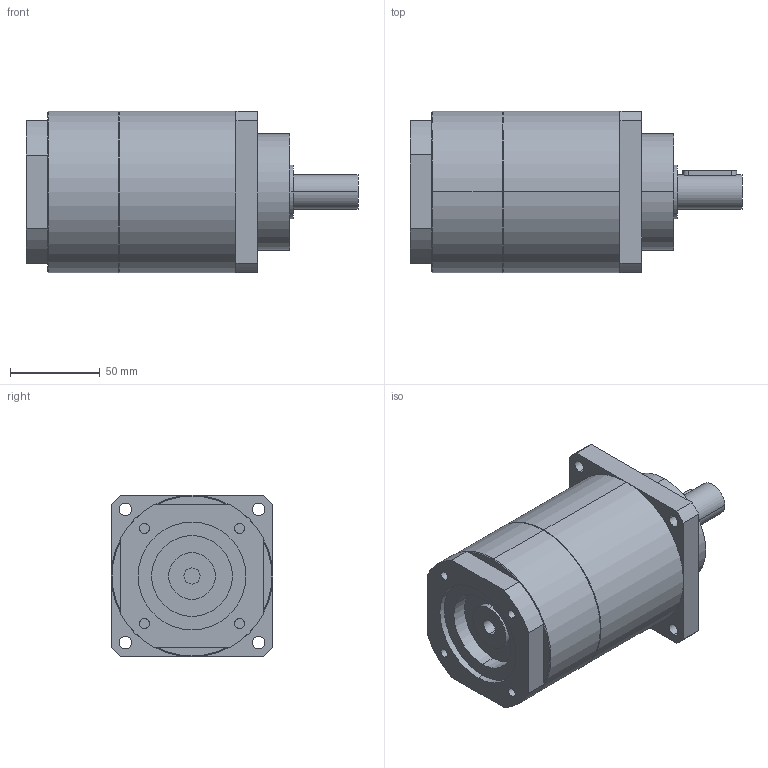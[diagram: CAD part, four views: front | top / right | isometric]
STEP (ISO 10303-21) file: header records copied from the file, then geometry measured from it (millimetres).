
FILE_DESCRIPTION(('CoCreate Modeling STEP Export'),'2;1');
FILE_NAME('GPT90_ig-9-12-16-20-25-28-35-40-50-70-100_19_B5T_9_P03.stp','2015-02-04T11:33:34',(''),(''),'CoCreate Modeling STEP processor for AP214 (Solid Model)','CoCreate Modeling 16.00C 25-Feb-2009 (C) Parametric Technology GmbH','');
FILE_SCHEMA(('AUTOMOTIVE_DESIGN { 1 0 10303 214 1 1 1 1 }'));
Length unit declared in the file: millimetre
Products named in the file (2): GPT90_ig-9-12-16-20-25-28-35-40-50-70-100_19_B5T_9_P03
Assembly tree (1 placements, depth 2):
  GPT90_ig-9-12-16-20-25-28-35-40-50-70-100_19_B5T_9_P03
    GPT90_ig-9-12-16-20-25-28-35-40-50-70-100_19_B5T_9_P03
Bounding box: 185 x 90 x 90 mm (x, y, z)
Volume: 878447 mm3; surface area: 64676.3 mm2
Topology: 1 solids, 1 shells, 88 faces, 221 edges, 148 vertices
Faces by surface type: cylinder 46, plane 38, cone 4
Entity records: 2699 total; most frequent: CARTESIAN_POINT 754, ORIENTED_EDGE 442, DIRECTION 330, EDGE_CURVE 221, VERTEX_POINT 148, AXIS2_PLACEMENT_3D 121, EDGE_LOOP 109, VECTOR 88
